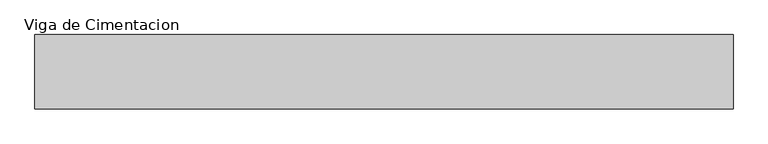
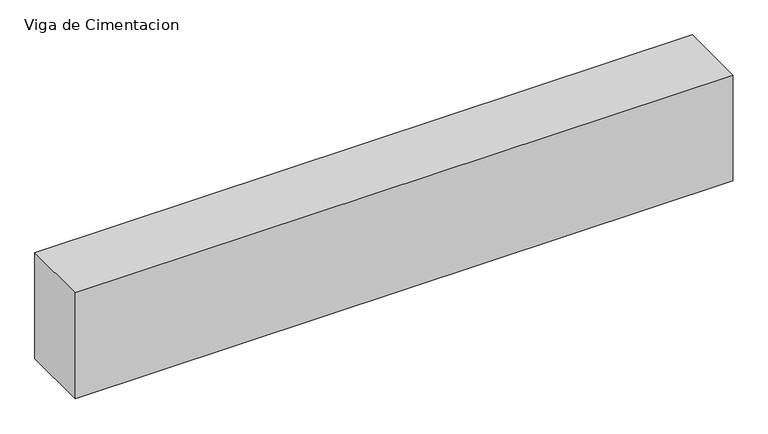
"""IFC4 building model written with IfcOpenShell, lengths in millimetres: beam geometry, Viga de Cimentacion : EVC_Viga de Cimentacion 25x50 cm."""

from ifc_helpers import new_model, si_unit, frame, origin, place, context, project, spatial, polyline, outline, extrude, source, transform, mapped, element, save


def viga_de_cimentacion_d1e64df9(model_context):
    return source(origin(), model_context, "Body", "SweptSolid", [
        extrude(outline(polyline([(1175.0, 125.0), (1175.0, -125.0), (-1175.0, -125.0), (-1175.0, 125.0), (1175.0, 125.0)])), frame((0.0, 0.0, -400.0), z_axis=(0.0, 0.0, 1.0), x_axis=(1.0, 0.0, 0.0)), (0.0, 0.0, 1.0), 400.0),
    ])


if __name__ == "__main__":
    model = new_model("IFC4")
    model_context = context("Model", 3, world=origin())
    ifc_project = project(units=[si_unit("LENGTHUNIT", "METRE", prefix="MILLI")], contexts=[model_context])
    site = spatial("IfcSite", under=ifc_project)
    building = spatial("IfcBuilding", under=site)
    placement = place(None, origin())
    viga_de_cimentacion_shape = viga_de_cimentacion_d1e64df9(model_context)
    element("IfcBeam", 1, ObjectType="Viga de Cimentacion : EVC_Viga de Cimentacion 25x50 cm", at=placement, inside=building, context=model_context, shape_type="MappedRepresentation", body=[
        mapped(viga_de_cimentacion_shape, transform((0.0, 0.0, 0.0), x_axis=(1.0, 0.0, 0.0), y_axis=(0.0, 1.0, 0.0), z_axis=(0.0, 0.0, 1.0))),
    ])
    save(model, "model.ifc")
